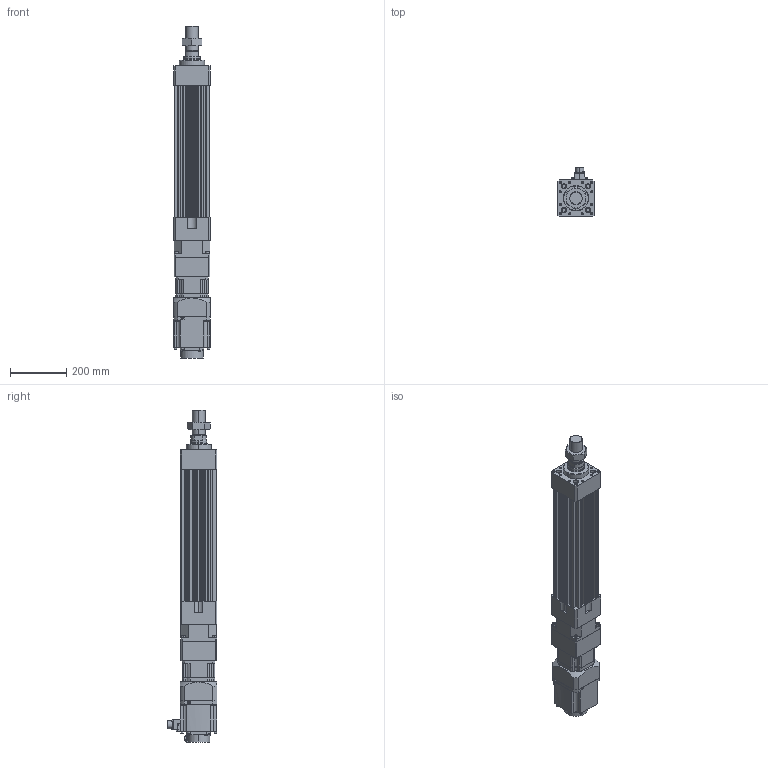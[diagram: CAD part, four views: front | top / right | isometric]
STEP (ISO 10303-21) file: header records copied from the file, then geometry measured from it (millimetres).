
FILE_DESCRIPTION (( 'STEP AP203' ), '1' );
FILE_NAME ('HES130NS(FS)(HS)-S250-W015G00-M.STEP', '2023-01-30T07:57:19', ( 'tms' ), ( '' ), 'SwSTEP 2.0', 'SolidWorks 2013', '' );
FILE_SCHEMA (( 'CONFIG_CONTROL_DESIGN' ));
Length unit declared in the file: millimetre
Products named in the file (8): M45X1.5P; AB115-003[HG-SR152]; AB1151; HES130NS(FS)(HS)-S250-W015G00-M; HES130 ROD M ST250; P0401400706; HES130-S250-G120; HG-SR152
Assembly tree (7 placements, depth 3):
  HES130NS(FS)(HS)-S250-W015G00-M
    HES130-S250-G120
    HES130 ROD M ST250
    M45X1.5P
    AB115-003[HG-SR152]
      AB1151
      P0401400706
    HG-SR152
Bounding box: 130 x 177.49 x 1179.5 mm (x, y, z)
Volume: 9153376 mm3; surface area: 1145405.5 mm2
Topology: 4 solids, 15 shells, 1220 faces, 3076 edges, 1983 vertices
Faces by surface type: cylinder 553, plane 551, cone 104, bspline 8, torus 4
Entity records: 38254 total; most frequent: CARTESIAN_POINT 7242, DIRECTION 6653, ORIENTED_EDGE 6060, EDGE_CURVE 3040, AXIS2_PLACEMENT_3D 2462, VERTEX_POINT 1983, VECTOR 1729, LINE 1729
